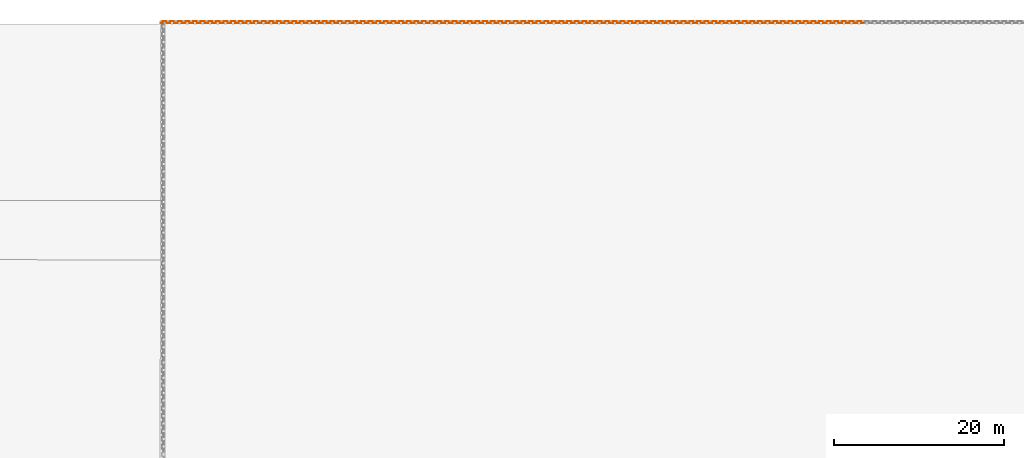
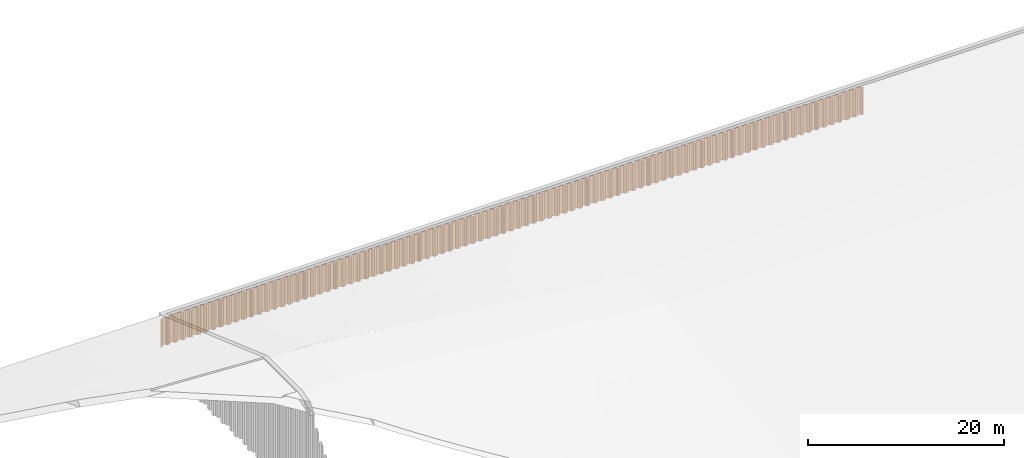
# One storey, part 15 of 32: 92 proxies.
"""IFC2X3 building model written with IfcOpenShell, lengths in millimetres."""

from ifc_helpers import new_model, entity, si_unit, converted_unit, derived_unit, direction, frame, frame_2d, origin, place, context, subcontext, project, spatial, polyline, circle_curve, parameter, trimmed, segment, composite_curve, outline, extrude, source, transform, mapped, type_object, type_shapes, element, save


model = new_model("IFC2X3")

# Units and contexts
model_context = context("Model", 3, precision=0.01, world=origin(), true_north=direction((6.12303176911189e-17, 1.0)))
body_context = subcontext(model_context, "Body", "Model", "MODEL_VIEW")
ifc_project = project(units=[si_unit("LENGTHUNIT", "METRE", prefix="MILLI"), si_unit("AREAUNIT", "SQUARE_METRE"), si_unit("VOLUMEUNIT", "CUBIC_METRE"), converted_unit("PLANEANGLEUNIT", "DEGREE", entity("IfcRatioMeasure", 0.0174532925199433), si_unit("PLANEANGLEUNIT", "RADIAN"), dimensions=[0, 0, 0, 0, 0, 0, 0]), si_unit("MASSUNIT", "GRAM", prefix="KILO"), derived_unit("MASSDENSITYUNIT", [(si_unit("MASSUNIT", "GRAM", prefix="KILO"), 1), (si_unit("LENGTHUNIT", "METRE"), -3)]), si_unit("TIMEUNIT", "SECOND"), si_unit("FREQUENCYUNIT", "HERTZ"), si_unit("THERMODYNAMICTEMPERATUREUNIT", "DEGREE_CELSIUS"), derived_unit("THERMALTRANSMITTANCEUNIT", [(si_unit("MASSUNIT", "GRAM", prefix="KILO"), 1), (si_unit("THERMODYNAMICTEMPERATUREUNIT", "KELVIN"), -1), (si_unit("TIMEUNIT", "SECOND"), -3)]), derived_unit("VOLUMETRICFLOWRATEUNIT", [(si_unit("LENGTHUNIT", "METRE"), 3), (si_unit("TIMEUNIT", "SECOND"), -1)]), si_unit("ELECTRICCURRENTUNIT", "AMPERE"), si_unit("ELECTRICVOLTAGEUNIT", "VOLT"), si_unit("POWERUNIT", "WATT"), si_unit("FORCEUNIT", "NEWTON", prefix="KILO"), si_unit("ILLUMINANCEUNIT", "LUX"), si_unit("LUMINOUSFLUXUNIT", "LUMEN"), si_unit("LUMINOUSINTENSITYUNIT", "CANDELA"), derived_unit("USERDEFINED", [(si_unit("MASSUNIT", "GRAM", prefix="KILO"), -1), (si_unit("LENGTHUNIT", "METRE"), -2), (si_unit("TIMEUNIT", "SECOND"), 3), (si_unit("LUMINOUSFLUXUNIT", "LUMEN"), 1)]), derived_unit("LINEARVELOCITYUNIT", [(si_unit("LENGTHUNIT", "METRE"), 1), (si_unit("TIMEUNIT", "SECOND"), -1)]), si_unit("PRESSUREUNIT", "PASCAL"), derived_unit("USERDEFINED", [(si_unit("LENGTHUNIT", "METRE"), -2), (si_unit("MASSUNIT", "GRAM", prefix="KILO"), 1), (si_unit("TIMEUNIT", "SECOND"), -2)])], contexts=[model_context])

# Site, building, storey
site_placement = place(None, origin())
site = spatial("IfcSite", under=ifc_project, at=site_placement, Name="Default", CompositionType="ELEMENT")
building_placement = place(site_placement, origin())
building = spatial("IfcBuilding", under=site, at=building_placement, CompositionType="ELEMENT")
storey_placement = place(building_placement, origin())
storey = spatial("IfcBuildingStorey", under=building, at=storey_placement, Name="矢板", CompositionType="ELEMENT", Elevation=0.0)

# Proxies
building_element_proxy_type = type_object("IfcBuildingElementProxyType", Name="鋼矢板10H型", PredefinedType="NOTDEFINED")
shared_shape = source(origin(), body_context, "Body", "SweptSolid", [
    extrude(outline(composite_curve([segment(trimmed(circle_curve(frame_2d((85.3662976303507, 306.644432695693), x_axis=(0.422618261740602, 0.906307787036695)), 13.885714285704), [parameter(24.9999999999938)], [parameter(90.0000000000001)], True, "PARAMETER"), True, "CONTINUOUS"), segment(polyline([(72.7815666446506, 312.512789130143), (9.8129512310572, 177.476157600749)]), True, "CONTINUOUS"), segment(trimmed(circle_curve(frame_2d((29.3891994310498, 168.347603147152), x_axis=(0.422618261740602, 0.906307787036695)), 21.6), [parameter(90.0000000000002)], [parameter(168.69006752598)], True, "PARAMETER"), True, "CONTINUOUS"), segment(polyline([(16.598697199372, 150.941769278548), (175.329723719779, 34.2998683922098)]), True, "CONTINUOUS"), segment(trimmed(circle_curve(frame_2d((168.93447260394, 25.596951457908), x_axis=(0.422618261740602, 0.906307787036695)), 10.7999999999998), [parameter(270.0)], [parameter(348.690067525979)], True, "PARAMETER"), False, "CONTINUOUS"), segment(polyline([(178.722596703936, 21.0326742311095), (18.2974003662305, -323.000269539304)]), True, "CONTINUOUS"), segment(trimmed(circle_curve(frame_2d((8.50927626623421, -318.435992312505), x_axis=(0.422618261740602, 0.906307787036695)), 10.8), [parameter(191.30993247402)], [parameter(269.999999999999)], True, "PARAMETER"), False, "CONTINUOUS"), segment(polyline([(5.95324328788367, -328.929166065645), (-185.429973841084, -282.310113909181)]), True, "CONTINUOUS"), segment(trimmed(circle_curve(frame_2d((-190.542039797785, -303.296461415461), x_axis=(0.422618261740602, 0.906307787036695)), 21.6000000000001), [parameter(11.3099324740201)], [parameter(90.0000000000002)], True, "PARAMETER"), True, "CONTINUOUS"), segment(polyline([(-210.118287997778, -294.167906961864), (-290.330886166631, -466.184378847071)]), True, "CONTINUOUS"), segment(trimmed(circle_curve(frame_2d((-270.754637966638, -475.312933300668), x_axis=(0.422618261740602, 0.906307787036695)), 21.6), [parameter(90.0000000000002)], [parameter(269.999999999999)], True, "PARAMETER"), True, "CONTINUOUS"), segment(polyline([(-251.178389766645, -484.441487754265), (-249.065298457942, -479.909948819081)]), True, "CONTINUOUS"), segment(polyline([(-249.065298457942, -479.909948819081), (-258.853422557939, -475.345671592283)]), True, "CONTINUOUS"), segment(polyline([(-258.853422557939, -475.345671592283), (-260.966513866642, -479.877210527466)]), True, "CONTINUOUS"), segment(trimmed(circle_curve(frame_2d((-270.754637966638, -475.312933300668), x_axis=(0.422618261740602, 0.906307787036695)), 10.8), [parameter(90.0000000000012)], [parameter(270.0)], True, "PARAMETER"), False, "CONTINUOUS"), segment(polyline([(-280.542762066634, -470.748656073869), (-200.330163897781, -298.732184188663)]), True, "CONTINUOUS"), segment(trimmed(circle_curve(frame_2d((-190.542039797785, -303.296461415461), x_axis=(0.422618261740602, 0.906307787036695)), 10.8), [parameter(11.3099324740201)], [parameter(89.9999999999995)], True, "PARAMETER"), False, "CONTINUOUS"), segment(polyline([(-187.986006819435, -292.803287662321), (3.39721030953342, -339.422339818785)]), True, "CONTINUOUS"), segment(trimmed(circle_curve(frame_2d((8.50927626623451, -318.435992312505), x_axis=(0.422618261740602, 0.906307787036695)), 21.6), [parameter(191.30993247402)], [parameter(270.0)], True, "PARAMETER"), True, "CONTINUOUS"), segment(polyline([(28.0855244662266, -327.564546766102), (188.510720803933, 16.4683970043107)]), True, "CONTINUOUS"), segment(trimmed(circle_curve(frame_2d((168.93447260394, 25.5969514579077), x_axis=(0.422618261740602, 0.906307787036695)), 21.6), [parameter(270.0)], [parameter(348.69006752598)], True, "PARAMETER"), True, "CONTINUOUS"), segment(polyline([(181.724974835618, 43.0027853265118), (22.9939483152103, 159.644686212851)]), True, "CONTINUOUS"), segment(trimmed(circle_curve(frame_2d((29.3891994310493, 168.347603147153), x_axis=(0.422618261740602, 0.906307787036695)), 10.7999999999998), [parameter(89.9999999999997)], [parameter(168.690067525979)], True, "PARAMETER"), False, "CONTINUOUS"), segment(polyline([(19.6010753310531, 172.911880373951), (82.5696907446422, 307.948511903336)]), True, "CONTINUOUS"), segment(trimmed(circle_curve(frame_2d((85.3662976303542, 306.64443269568), x_axis=(0.422618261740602, 0.906307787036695)), 3.08571428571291), [parameter(25.0000000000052)], [parameter(90.0000000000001)], True, "PARAMETER"), False, "CONTINUOUS"), segment(polyline([(85.3662976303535, 309.730146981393), (122.220231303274, 309.730146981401)]), True, "CONTINUOUS"), segment(trimmed(circle_curve(frame_2d((122.220231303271, 323.615861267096), x_axis=(0.422618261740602, 0.906307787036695)), 13.8857142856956), [parameter(205.000000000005)], [parameter(270.0)], True, "PARAMETER"), True, "CONTINUOUS"), segment(polyline([(134.804962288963, 317.747504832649), (141.079261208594, 331.202782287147)]), True, "CONTINUOUS"), segment(trimmed(circle_curve(frame_2d((121.503013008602, 340.331336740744), x_axis=(0.422618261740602, 0.906307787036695)), 21.6), [parameter(270.0)], [parameter(90.0000000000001)], True, "PARAMETER"), True, "CONTINUOUS"), segment(polyline([(101.926764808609, 349.459891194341), (99.8136734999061, 344.928352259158)]), True, "CONTINUOUS"), segment(polyline([(99.8136734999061, 344.928352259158), (109.601797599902, 340.364075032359)]), True, "CONTINUOUS"), segment(polyline([(109.601797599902, 340.364075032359), (111.714888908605, 344.895613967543)]), True, "CONTINUOUS"), segment(trimmed(circle_curve(frame_2d((121.503013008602, 340.331336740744), x_axis=(0.422618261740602, 0.906307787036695)), 10.8), [parameter(270.0)], [parameter(89.9999999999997)], True, "PARAMETER"), False, "CONTINUOUS"), segment(polyline([(131.291137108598, 335.767059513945), (125.01683818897, 322.311782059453)]), True, "CONTINUOUS"), segment(trimmed(circle_curve(frame_2d((122.220231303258, 323.615861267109), x_axis=(0.422618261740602, 0.906307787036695)), 3.08571428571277), [parameter(204.999999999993)], [parameter(270.0)], True, "PARAMETER"), False, "CONTINUOUS"), segment(polyline([(122.220231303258, 320.530146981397), (85.3662976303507, 320.530146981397)]), True, "CONTINUOUS")], self_intersect=False)), frame((95.205667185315, -48.8888888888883, -3500.0), z_axis=(0.0, 0.0, -1.0), x_axis=(0.4226182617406, 0.906307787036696, 0.0)), (0.0, 0.0, -1.0), 3500.0),
])
type_shapes(building_element_proxy_type, [shared_shape])
for number, where in (
    (1, (-46102.5000000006, 28702.0, 7600.0)),
    (2, (-47002.5000000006, 28702.0, 7600.0)),
    (3, (-47902.5000000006, 28702.0, 7600.0)),
    (4, (-48802.5000000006, 28702.0, 7600.0)),
    (5, (-49702.5000000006, 28702.0, 7600.0)),
    (6, (-50602.5000000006, 28702.0, 7600.0)),
    (7, (-51502.5000000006, 28702.0, 7600.0)),
    (8, (-52402.5000000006, 28702.0, 7600.0)),
    (9, (-53302.5000000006, 28702.0, 7600.0)),
    (10, (-54202.5000000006, 28702.0, 7600.0)),
    (11, (-55102.5000000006, 28702.0, 7600.0)),
    (12, (-56002.5000000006, 28702.0, 7600.0)),
    (13, (-56902.5000000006, 28702.0, 7600.0)),
    (14, (-57802.5000000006, 28702.0, 7600.0)),
    (15, (-58702.5000000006, 28702.0, 7600.0)),
    (16, (-59602.5000000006, 28702.0, 7600.0)),
    (17, (-60502.5000000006, 28702.0, 7600.0)),
    (18, (-61402.5000000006, 28702.0, 7600.0)),
    (19, (-62302.5000000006, 28702.0, 7600.0)),
    (20, (-63202.5000000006, 28702.0, 7600.0)),
    (21, (-64102.5000000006, 28702.0, 7600.0)),
    (22, (-65002.5000000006, 28702.0, 7600.0)),
    (23, (-65902.5000000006, 28702.0, 7600.0)),
    (24, (-66802.5000000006, 28702.0, 7600.0)),
    (25, (-67702.5000000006, 28702.0, 7600.0)),
    (26, (-68602.5000000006, 28702.0, 7600.0)),
    (27, (-69502.5000000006, 28702.0, 7600.0)),
    (28, (-70402.5000000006, 28702.0, 7600.0)),
    (29, (-71302.5000000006, 28702.0, 7600.0)),
    (30, (-72202.5000000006, 28702.0, 7600.0)),
    (31, (-73102.5000000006, 28702.0, 7600.0)),
    (32, (-74002.5000000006, 28702.0, 7600.0)),
    (33, (-74902.5000000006, 28702.0, 7600.0)),
    (34, (-75802.5000000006, 28702.0, 7600.0)),
    (35, (-76702.5000000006, 28702.0, 7600.0)),
    (36, (-77602.5000000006, 28702.0, 7600.0)),
    (37, (-78502.5000000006, 28702.0, 7600.0)),
    (38, (-79402.5000000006, 28702.0, 7600.0)),
    (39, (-80302.5000000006, 28702.0, 7600.0)),
    (40, (-81202.5000000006, 28702.0, 7600.0)),
    (41, (-82102.5000000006, 28702.0, 7600.0)),
    (42, (-83002.5000000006, 28702.0, 7600.0)),
    (43, (-83902.5000000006, 28702.0, 7600.0)),
    (44, (-84802.5000000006, 28702.0, 7600.0)),
    (45, (-85702.5000000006, 28702.0, 7600.0)),
    (46, (-86602.5000000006, 28702.0, 7600.0)),
    (47, (-87502.5000000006, 28702.0, 7600.0)),
    (48, (-88402.5000000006, 28702.0, 7600.0)),
    (49, (-89302.5000000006, 28702.0, 7600.0)),
    (50, (-90202.5000000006, 28702.0, 7600.0)),
    (51, (-91102.5000000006, 28702.0, 7600.0)),
    (52, (-92002.5000000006, 28702.0, 7600.0)),
    (53, (-92902.5000000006, 28702.0, 7600.0)),
    (54, (-93802.5000000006, 28702.0, 7600.0)),
    (55, (-94702.5000000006, 28702.0, 7600.0)),
    (56, (-95602.5000000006, 28702.0, 7600.0)),
    (57, (-96502.5000000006, 28702.0, 7600.0)),
    (58, (-97402.5000000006, 28702.0, 7600.0)),
    (59, (-98302.5000000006, 28702.0, 7600.0)),
    (60, (-99202.5000000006, 28702.0, 7600.0)),
    (61, (-100102.500000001, 28702.0, 7600.0)),
    (62, (-101002.500000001, 28702.0, 7600.0)),
    (63, (-101902.500000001, 28702.0, 7600.0)),
    (64, (-102802.500000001, 28702.0, 7600.0)),
    (65, (-103702.500000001, 28702.0, 7600.0)),
    (66, (-104602.500000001, 28702.0, 7600.0)),
    (67, (-105502.500000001, 28702.0, 7600.0)),
    (68, (-106402.500000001, 28702.0, 7600.0)),
    (69, (-107302.500000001, 28702.0, 7600.0)),
    (70, (-108202.500000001, 28702.0, 7600.0)),
    (71, (-109102.500000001, 28702.0, 7600.0)),
    (72, (-110002.500000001, 28702.0, 7600.0)),
    (73, (-110902.500000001, 28702.0, 7600.0)),
    (74, (-111802.500000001, 28702.0, 7600.0)),
    (75, (-112702.500000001, 28702.0, 7600.0)),
    (76, (-113602.500000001, 28702.0, 7600.0)),
    (77, (-114502.500000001, 28702.0, 7600.0)),
    (78, (-115402.500000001, 28702.0, 7600.0)),
    (79, (-116302.500000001, 28702.0, 7600.0)),
    (80, (-117202.500000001, 28702.0, 7600.0)),
    (81, (-118102.500000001, 28702.0, 7600.0)),
    (82, (-119002.500000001, 28702.0, 7600.0)),
    (83, (-119902.500000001, 28702.0, 7600.0)),
    (84, (-120802.500000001, 28702.0, 7600.0)),
    (85, (-121702.500000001, 28702.0, 7600.0)),
    (86, (-122602.500000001, 28702.0, 7600.0)),
    (87, (-123502.500000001, 28702.0, 7600.0)),
    (88, (-124402.500000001, 28702.0, 7600.0)),
    (89, (-125302.500000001, 28702.0, 7600.0)),
    (90, (-126202.500000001, 28702.0, 7600.0)),
    (91, (-127102.500000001, 28702.0, 7600.0)),
    (92, (-128002.500000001, 28702.0, 7600.0)),
):
    element("IfcBuildingElementProxy", number, at=place(storey_placement, frame(where)), inside=storey, type_object=building_element_proxy_type, Name="鋼矢板10H型:鋼矢板10H型", ObjectType="鋼矢板10H型:鋼矢板10H型", context=body_context, shape_type="MappedRepresentation", body=[
        mapped(shared_shape, transform((0.0, 0.0, 0.0), scale=1.0)),
    ])

save(model, "model.ifc")
